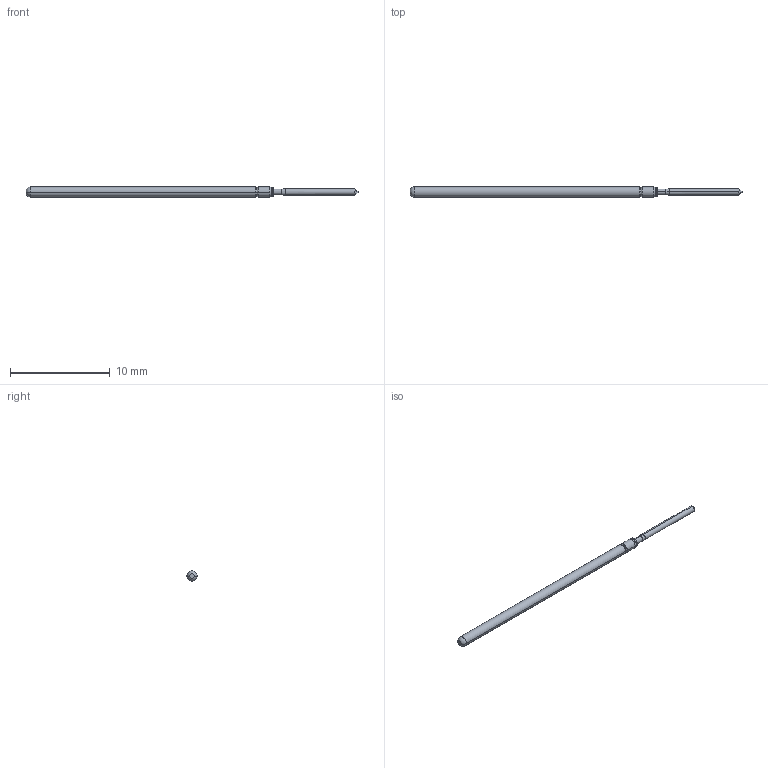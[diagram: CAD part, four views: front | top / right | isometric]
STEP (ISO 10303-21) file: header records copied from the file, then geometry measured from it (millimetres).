
FILE_DESCRIPTION (( 'STEP AP203' ), '1' );
FILE_NAME ('101024-049-922 (REST).STEP', '2022-11-18T09:49:01', ( '' ), ( '' ), 'SwSTEP 2.0', 'SolidWorks 2022', '' );
FILE_SCHEMA (( 'CONFIG_CONTROL_DESIGN' ));
Length unit declared in the file: inch
Products named in the file (1): 101024-049-922 (REST)
Bounding box: 33.27 x 1.02 x 1.02 mm (x, y, z)
Volume: 22.7 mm3; surface area: 96.7 mm2
Topology: 1 solids, 1 shells, 34 faces, 72 edges, 42 vertices
Faces by surface type: plane 12, cylinder 10, torus 6, cone 6
Entity records: 983 total; most frequent: CARTESIAN_POINT 179, DIRECTION 164, ORIENTED_EDGE 144, EDGE_CURVE 72, AXIS2_PLACEMENT_3D 67, VERTEX_POINT 42, EDGE_LOOP 36, FACE_OUTER_BOUND 34
